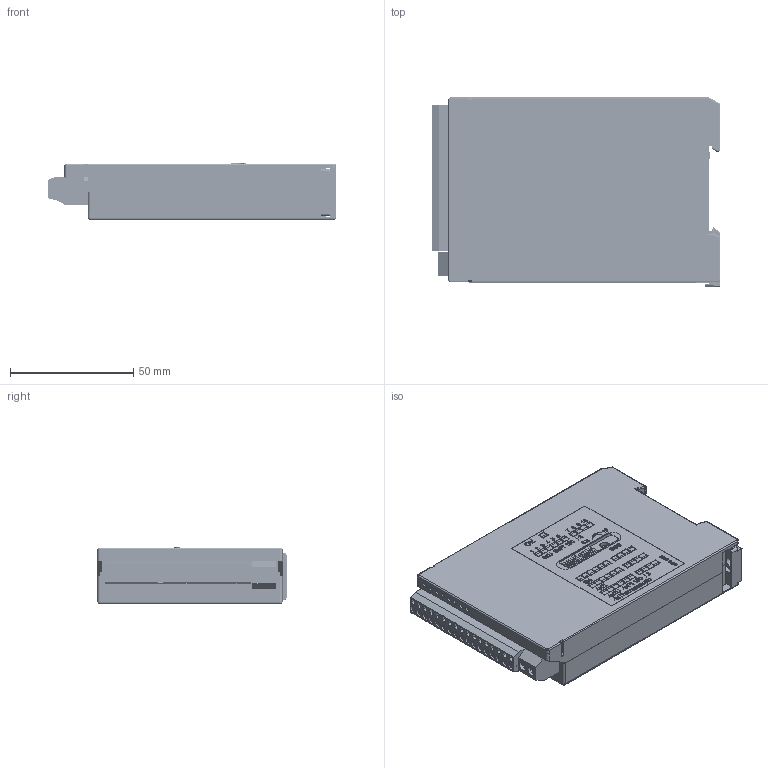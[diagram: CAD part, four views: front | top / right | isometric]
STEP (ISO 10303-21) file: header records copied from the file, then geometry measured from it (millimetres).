
FILE_DESCRIPTION (( 'STEP AP214' ), '1' );
FILE_NAME ('10700-1902-00_3D.STEP', '2015-01-28T13:02:42', ( '' ), ( '' ), 'SwSTEP 2.0', 'SolidWorks 2015', '' );
FILE_SCHEMA (( 'AUTOMOTIVE_DESIGN' ));
Length unit declared in the file: millimetre
Products named in the file (12): Kopie von rp02317hbwc^10700-1902-00_3D; Kopie von 31147102^10700-1902-00_3D; pan head cross recess screw_din_ISO 7045 - M3 x 4 - Z --- 4N; Kopie von K-Riegel^10700-1902-00_3D; Kopie von K-Leiterpklatte 60 lang^10700-1902-00_3D; Kopie von 1045 1920 K-Deckel^10700-1902-00_3D; 10700-1902-00_Unterteil_3D; 10700-1902-00_3D; 1070 1203_Typenschild_3D; 1070 1210_Klemmen_3D; 1070 1220_A1-A2_3D; 1070 1231_DIP_3D
Assembly tree (11 placements, depth 2):
  10700-1902-00_3D
    10700-1902-00_Unterteil_3D
    Kopie von 1045 1920 K-Deckel^10700-1902-00_3D
    Kopie von K-Leiterpklatte 60 lang^10700-1902-00_3D
    Kopie von K-Riegel^10700-1902-00_3D
    pan head cross recess screw_din_ISO 7045 - M3 x 4 - Z --- 4N
    Kopie von 31147102^10700-1902-00_3D
    Kopie von rp02317hbwc^10700-1902-00_3D
    1070 1231_DIP_3D
    1070 1220_A1-A2_3D
    1070 1210_Klemmen_3D
    1070 1203_Typenschild_3D
Bounding box: 116.61 x 76.65 x 23.21 mm (x, y, z)
Volume: 53620.5 mm3; surface area: 68897.9 mm2
Topology: 684 solids, 842 shells, 7960 faces, 18782 edges, 12550 vertices
Faces by surface type: plane 6312, bspline 1276, cylinder 315, sphere 22, torus 20, cone 15
Full cylindrical faces by diameter (mm): 1 x19, 1.5 x7, 2 x8, 2.7 x17, 2.8 x2, 3 x29, 3.1 x2, 3.6 x1, 4 x3, 4.2 x1, 5.6 x1, 6 x1, 6.8 x1, 7 x1, 7.2 x1, 9 x1
Entity records: 268529 total; most frequent: CARTESIAN_POINT 80681, ORIENTED_EDGE 36798, DIRECTION 30004, EDGE_CURVE 18563, VECTOR 15202, LINE 15202, VERTEX_POINT 12518, EDGE_LOOP 8645
